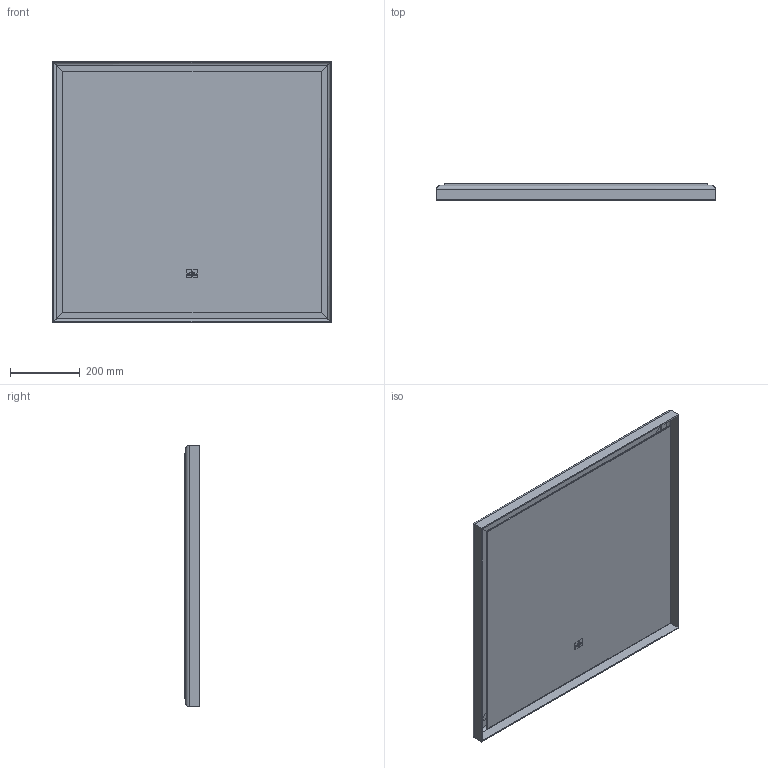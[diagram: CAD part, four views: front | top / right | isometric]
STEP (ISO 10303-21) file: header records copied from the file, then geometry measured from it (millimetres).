
FILE_DESCRIPTION(/* description */ (''),/* implementation_level */ '2;1');
FILE_NAME(/* name */ 'K:\ACAD\PERSPECT\Freisteller\V&B\Subway 3.0\A46380YY.stp',/* time_stamp */ '2020-07-28T15:28:39+02:00',/* author */ ('StegeR'),/* organization */ (''),/* preprocessor_version */ 'ST-DEVELOPER v16.1',/* originating_system */ 'Autodesk Inventor 2016',/* authorisation */ '');
FILE_SCHEMA (('AUTOMOTIVE_DESIGN { 1 0 10303 214 3 1 1 }'));
Length unit declared in the file: millimetre
Products named in the file (1): A46380YY
Bounding box: 800 x 45.5 x 750 mm (x, y, z)
Volume: 3938341.9 mm3; surface area: 2209196.5 mm2
Topology: 35 solids, 35 shells, 802 faces, 2041 edges, 1358 vertices
Faces by surface type: plane 594, cylinder 200, bspline 8
Full cylindrical faces by diameter (mm): 0.488 x2, 4.4 x12, 5.8 x24
Entity records: 24117 total; most frequent: CARTESIAN_POINT 4308, ORIENTED_EDGE 4006, DIRECTION 4005, EDGE_CURVE 2003, LINE 1575, VECTOR 1575, VERTEX_POINT 1358, AXIS2_PLACEMENT_3D 1215
